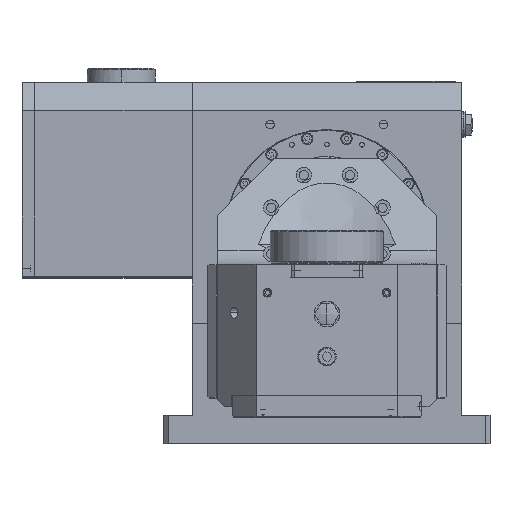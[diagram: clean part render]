
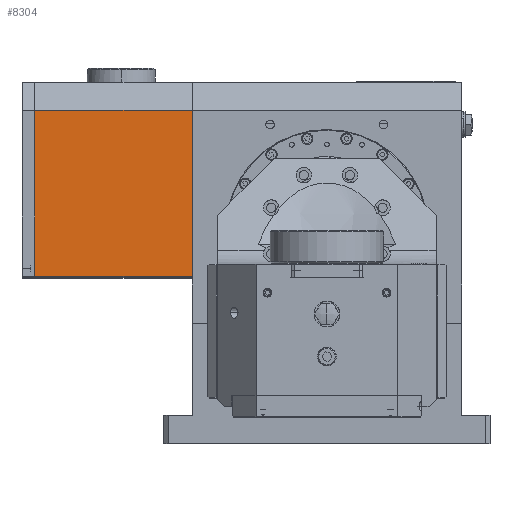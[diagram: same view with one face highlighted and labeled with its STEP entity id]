
A CAD part, top view. The second image highlights one B-rep face of the part: STEP entity #8304.
In plain terms, the highlighted planar face has unit normal (0, 0, 1).
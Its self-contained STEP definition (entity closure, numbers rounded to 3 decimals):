
#342 = CARTESIAN_POINT ( 'NONE',  ( -95., -33., 52. ) ) ;
#2175 = CARTESIAN_POINT ( 'NONE',  ( -95., -32., 52. ) ) ;
#3334 = VECTOR ( 'NONE', #38115, 1000. ) ;
#6170 = VERTEX_POINT ( 'NONE', #46607 ) ;
#7046 = EDGE_CURVE ( 'NONE', #46239, #6170, #39577, .T. ) ;
#7097 = CARTESIAN_POINT ( 'NONE',  ( -206., -32., 52. ) ) ;
#7585 = CARTESIAN_POINT ( 'NONE',  ( -206., -32., 52. ) ) ;
#8215 = PLANE ( 'NONE',  #56356 ) ;
#8304 = ADVANCED_FACE ( 'NONE', ( #48473 ), #8215, .F. ) ;
#13080 = CARTESIAN_POINT ( 'NONE',  ( -206., -33., 52. ) ) ;
#16065 = ORIENTED_EDGE ( 'NONE', *, *, #48599, .F. ) ;
#17299 = DIRECTION ( 'NONE',  ( -1., 0., 0. ) ) ;
#17978 = LINE ( 'NONE', #342, #40912 ) ;
#25700 = LINE ( 'NONE', #13080, #51254 ) ;
#27492 = EDGE_LOOP ( 'NONE', ( #16065, #34085, #51603, #46396 ) ) ;
#31367 = EDGE_CURVE ( 'NONE', #34560, #54336, #37546, .T. ) ;
#33459 = EDGE_CURVE ( 'NONE', #54336, #6170, #17978, .T. ) ;
#34085 = ORIENTED_EDGE ( 'NONE', *, *, #31367, .T. ) ;
#34560 = VERTEX_POINT ( 'NONE', #7097 ) ;
#35743 = CARTESIAN_POINT ( 'NONE',  ( -206., 85., 52. ) ) ;
#35882 = DIRECTION ( 'NONE',  ( 0., 1., 0. ) ) ;
#37546 = LINE ( 'NONE', #7585, #3334 ) ;
#38115 = DIRECTION ( 'NONE',  ( 1., 0., 0. ) ) ;
#39577 = LINE ( 'NONE', #40430, #57011 ) ;
#39649 = CARTESIAN_POINT ( 'NONE',  ( -206., -33., 52. ) ) ;
#40430 = CARTESIAN_POINT ( 'NONE',  ( -206., 85., 52. ) ) ;
#40912 = VECTOR ( 'NONE', #35882, 1000. ) ;
#43626 = DIRECTION ( 'NONE',  ( 0., 1., 0. ) ) ;
#46239 = VERTEX_POINT ( 'NONE', #35743 ) ;
#46396 = ORIENTED_EDGE ( 'NONE', *, *, #7046, .F. ) ;
#46607 = CARTESIAN_POINT ( 'NONE',  ( -95., 85., 52. ) ) ;
#48473 = FACE_OUTER_BOUND ( 'NONE', #27492, .T. ) ;
#48599 = EDGE_CURVE ( 'NONE', #34560, #46239, #25700, .T. ) ;
#51254 = VECTOR ( 'NONE', #43626, 1000. ) ;
#51603 = ORIENTED_EDGE ( 'NONE', *, *, #33459, .T. ) ;
#53643 = DIRECTION ( 'NONE',  ( 1., 0., 0. ) ) ;
#54336 = VERTEX_POINT ( 'NONE', #2175 ) ;
#56356 = AXIS2_PLACEMENT_3D ( 'NONE', #39649, #57553, #17299 ) ;
#57011 = VECTOR ( 'NONE', #53643, 1000. ) ;
#57553 = DIRECTION ( 'NONE',  ( 0., 0., -1. ) ) ;
